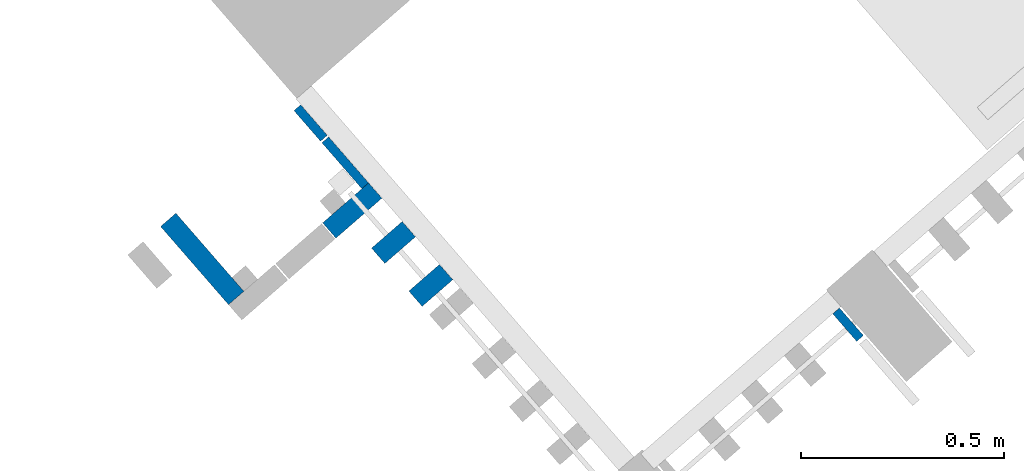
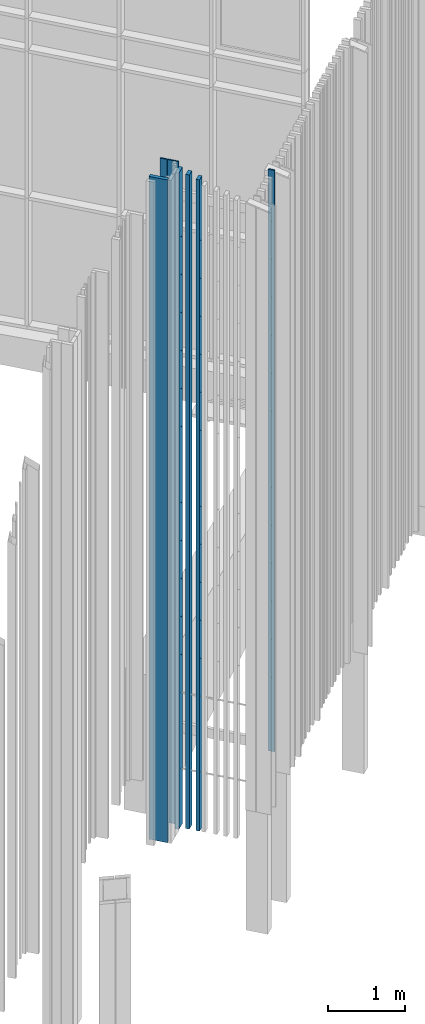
# One storey, part 271 of 390: 7 walls.
"""IFC2X3 building model written with IfcOpenShell, lengths in millimetres."""

from ifc_helpers import new_model, entity, si_unit, converted_unit, derived_unit, money_unit, direction, frame, origin_with_axes, place, context, subcontext, project, spatial, faceted_brep, material, type_object, element, save


model = new_model("IFC2X3")

# Units and contexts
model_context = context("Model", 3, precision=1e-05, world=origin_with_axes(), true_north=direction((0.0, 1.0)))
body_context = subcontext(model_context, "Body", "Model", "MODEL_VIEW")
ifc_project = project(units=[si_unit("LENGTHUNIT", "METRE", prefix="MILLI"), si_unit("AREAUNIT", "SQUARE_METRE"), si_unit("VOLUMEUNIT", "CUBIC_METRE"), converted_unit("PLANEANGLEUNIT", "DEGREE", entity("IfcPlaneAngleMeasure", 0.0174532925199), si_unit("PLANEANGLEUNIT", "RADIAN"), dimensions=[0, 0, 0, 0, 0, 0, 0]), si_unit("SOLIDANGLEUNIT", "STERADIAN"), money_unit("EUR"), converted_unit("TIMEUNIT", "Year", entity("IfcTimeMeasure", 31556926.0), si_unit("TIMEUNIT", "SECOND"), dimensions=[0, 0, 1, 0, 0, 0, 0]), si_unit("MASSUNIT", "GRAM", prefix="KILO"), si_unit("THERMODYNAMICTEMPERATUREUNIT", "DEGREE_CELSIUS"), si_unit("LUMINOUSINTENSITYUNIT", "LUMEN"), si_unit("ENERGYUNIT", "JOULE", prefix="MEGA"), derived_unit("THERMALCONDUCTANCEUNIT", [(si_unit("POWERUNIT", "WATT"), 1), (si_unit("LENGTHUNIT", "METRE"), -1), (si_unit("THERMODYNAMICTEMPERATUREUNIT", "KELVIN"), -1)]), derived_unit("SPECIFICHEATCAPACITYUNIT", [(si_unit("ENERGYUNIT", "JOULE"), 1), (si_unit("MASSUNIT", "GRAM", prefix="KILO"), -1), (si_unit("THERMODYNAMICTEMPERATUREUNIT", "KELVIN"), -1)]), derived_unit("MASSDENSITYUNIT", [(si_unit("MASSUNIT", "GRAM", prefix="KILO"), 1), (si_unit("VOLUMEUNIT", "CUBIC_METRE"), -1)])], contexts=[model_context])

# Site, building, storey
site_placement = place(None, origin_with_axes())
site = spatial("IfcSite", under=ifc_project, at=site_placement, Name="Site", CompositionType="ELEMENT")
building_placement = place(site_placement, origin_with_axes())
building = spatial("IfcBuilding", under=site, at=building_placement, Name="Building", CompositionType="ELEMENT")
storey_placement = place(building_placement, origin_with_axes())
storey = spatial("IfcBuildingStorey", under=building, at=storey_placement, Name="1 korrus", CompositionType="ELEMENT", Elevation=0.0)

# Walls
ifc_material_1 = material(Name="GENEERILINE - VÄLINE VOODER")
wall_type_1 = type_object("IfcWallType", Name="Puitfassaadi ribistik", PredefinedType="NOTDEFINED")
wall_1_placement = place(storey_placement, frame((172685.468549, 94405.9259666, -578.61886405), z_axis=(0.0, 0.0, 1.0), x_axis=(-0.656059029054, 0.754709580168, 0.0)))
element("IfcWall", 1, at=wall_1_placement, inside=storey, type_object=wall_type_1, material=ifc_material_1, Name="GENEERILINE - VÄLINE VOODER", context=body_context, shape_type="Brep", body=[
    faceted_brep([(25.0, 74.9999999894, 10357.9558295), (25.0, -74.9999999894, 10357.9558295), (25.0, -74.9999999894, 0.0), (25.0, 74.9999999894, 0.0), (25.0, -18.244082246, 904.61886405), (25.0, -18.244082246, 892.61886405), (25.0, -30.244082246, 892.61886405), (25.0, -30.244082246, 904.61886405), (25.0, -18.244082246, 2104.61886405), (25.0, -18.244082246, 2092.61886405), (25.0, -30.244082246, 2092.61886405), (25.0, -30.244082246, 2104.61886405), (25.0, -18.244082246, 2704.61886405), (25.0, -18.244082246, 2692.61886405), (25.0, -30.244082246, 2692.61886405), (25.0, -30.244082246, 2704.61886405), (25.0, -18.244082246, 3304.61886405), (25.0, -18.244082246, 3292.61886405), (25.0, -30.244082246, 3292.61886405), (25.0, -30.244082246, 3304.61886405), (25.0, -18.244082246, 3904.61886405), (25.0, -18.244082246, 3892.61886405), (25.0, -30.244082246, 3892.61886405), (25.0, -30.244082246, 3904.61886405), (25.0, -18.244082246, 4504.61886405), (25.0, -18.244082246, 4492.61886405), (25.0, -30.244082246, 4492.61886405), (25.0, -30.244082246, 4504.61886405), (25.0, -18.244082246, 5104.61886405), (25.0, -18.244082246, 5092.61886405), (25.0, -30.244082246, 5092.61886405), (25.0, -30.244082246, 5104.61886405), (25.0, -18.244082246, 6304.61886405), (25.0, -18.244082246, 6292.61886405), (25.0, -30.244082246, 6292.61886405), (25.0, -30.244082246, 6304.61886405), (25.0, -18.244082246, 6904.61886405), (25.0, -18.244082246, 6892.61886405), (25.0, -30.244082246, 6892.61886405), (25.0, -30.244082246, 6904.61886405), (25.0, -18.244082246, 7504.61886405), (25.0, -18.244082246, 7492.61886405), (25.0, -30.244082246, 7492.61886405), (25.0, -30.244082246, 7504.61886405), (25.0, -18.244082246, 8104.61886405), (25.0, -18.244082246, 8092.61886405), (25.0, -30.244082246, 8092.61886405), (25.0, -30.244082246, 8104.61886405), (25.0, -18.244082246, 8704.61886405), (25.0, -18.244082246, 8692.61886405), (25.0, -30.244082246, 8692.61886405), (25.0, -30.244082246, 8704.61886405), (25.0, -18.244082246, 9304.61886405), (25.0, -18.244082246, 9292.61886405), (25.0, -30.244082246, 9292.61886405), (25.0, -30.244082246, 9304.61886405), (-25.0, 74.9999999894, 10357.9558295), (-25.0, -74.9999999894, 10357.9558295), (-25.0, -74.9999999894, 0.0), (-25.0, 74.9999999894, 0.0), (-25.0, -18.2440583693, 904.61886405), (-25.0, -18.2440583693, 892.61886405), (-25.0, -30.2440583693, 892.61886405), (-25.0, -30.2440583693, 904.61886405), (-25.0, -18.2440583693, 2104.61886405), (-25.0, -18.2440583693, 2092.61886405), (-25.0, -30.2440583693, 2092.61886405), (-25.0, -30.2440583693, 2104.61886405), (-25.0, -18.2440583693, 2704.61886405), (-25.0, -18.2440583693, 2692.61886405), (-25.0, -30.2440583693, 2692.61886405), (-25.0, -30.2440583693, 2704.61886405), (-25.0, -18.2440583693, 3304.61886405), (-25.0, -18.2440583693, 3292.61886405), (-25.0, -30.2440583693, 3292.61886405), (-25.0, -30.2440583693, 3304.61886405), (-25.0, -18.2440583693, 3904.61886405), (-25.0, -18.2440583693, 3892.61886405), (-25.0, -30.2440583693, 3892.61886405), (-25.0, -30.2440583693, 3904.61886405), (-25.0, -18.2440583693, 4504.61886405), (-25.0, -18.2440583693, 4492.61886405), (-25.0, -30.2440583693, 4492.61886405), (-25.0, -30.2440583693, 4504.61886405), (-25.0, -18.2440583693, 5104.61886405), (-25.0, -18.2440583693, 5092.61886405), (-25.0, -30.2440583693, 5092.61886405), (-25.0, -30.2440583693, 5104.61886405), (-25.0, -18.2440583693, 6304.61886405), (-25.0, -18.2440583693, 6292.61886405), (-25.0, -30.2440583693, 6292.61886405), (-25.0, -30.2440583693, 6304.61886405), (-25.0, -18.2440583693, 6904.61886405), (-25.0, -18.2440583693, 6892.61886405), (-25.0, -30.2440583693, 6892.61886405), (-25.0, -30.2440583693, 6904.61886405), (-25.0, -18.2440583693, 7504.61886405), (-25.0, -18.2440583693, 7492.61886405), (-25.0, -30.2440583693, 7492.61886405), (-25.0, -30.2440583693, 7504.61886405), (-25.0, -18.2440583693, 8104.61886405), (-25.0, -18.2440583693, 8092.61886405), (-25.0, -30.2440583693, 8092.61886405), (-25.0, -30.2440583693, 8104.61886405), (-25.0, -18.2440583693, 8704.61886405), (-25.0, -18.2440583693, 8692.61886405), (-25.0, -30.2440583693, 8692.61886405), (-25.0, -30.2440583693, 8704.61886405), (-25.0, -18.2440583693, 9304.61886405), (-25.0, -18.2440583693, 9292.61886405), (-25.0, -30.2440583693, 9292.61886405), (-25.0, -30.2440583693, 9304.61886405)], [[[0, 1, 2, 3], [4, 5, 6, 7], [8, 9, 10, 11], [12, 13, 14, 15], [16, 17, 18, 19], [20, 21, 22, 23], [24, 25, 26, 27], [28, 29, 30, 31], [32, 33, 34, 35], [36, 37, 38, 39], [40, 41, 42, 43], [44, 45, 46, 47], [48, 49, 50, 51], [52, 53, 54, 55]], [[0, 56, 57, 1]], [[1, 57, 58, 2]], [[3, 2, 58, 59]], [[56, 0, 3, 59]], [[4, 60, 61, 5]], [[5, 61, 62, 6]], [[6, 62, 63, 7]], [[7, 63, 60, 4]], [[8, 64, 65, 9]], [[9, 65, 66, 10]], [[10, 66, 67, 11]], [[11, 67, 64, 8]], [[12, 68, 69, 13]], [[13, 69, 70, 14]], [[14, 70, 71, 15]], [[15, 71, 68, 12]], [[16, 72, 73, 17]], [[17, 73, 74, 18]], [[18, 74, 75, 19]], [[19, 75, 72, 16]], [[20, 76, 77, 21]], [[21, 77, 78, 22]], [[22, 78, 79, 23]], [[23, 79, 76, 20]], [[24, 80, 81, 25]], [[25, 81, 82, 26]], [[26, 82, 83, 27]], [[27, 83, 80, 24]], [[28, 84, 85, 29]], [[29, 85, 86, 30]], [[30, 86, 87, 31]], [[31, 87, 84, 28]], [[32, 88, 89, 33]], [[33, 89, 90, 34]], [[34, 90, 91, 35]], [[35, 91, 88, 32]], [[36, 92, 93, 37]], [[37, 93, 94, 38]], [[38, 94, 95, 39]], [[39, 95, 92, 36]], [[40, 96, 97, 41]], [[41, 97, 98, 42]], [[42, 98, 99, 43]], [[43, 99, 96, 40]], [[44, 100, 101, 45]], [[45, 101, 102, 46]], [[46, 102, 103, 47]], [[47, 103, 100, 44]], [[48, 104, 105, 49]], [[49, 105, 106, 50]], [[50, 106, 107, 51]], [[51, 107, 104, 48]], [[52, 108, 109, 53]], [[53, 109, 110, 54]], [[54, 110, 111, 55]], [[55, 111, 108, 52]], [[57, 56, 59, 58], [62, 61, 60, 63], [66, 65, 64, 67], [70, 69, 68, 71], [74, 73, 72, 75], [78, 77, 76, 79], [82, 81, 80, 83], [86, 85, 84, 87], [90, 89, 88, 91], [94, 93, 92, 95], [98, 97, 96, 99], [102, 101, 100, 103], [106, 105, 104, 107], [110, 109, 108, 111]]]),
])
wall_2_placement = place(storey_placement, frame((172878.846726, 94221.5753623, -578.61886405), z_axis=(0.0, 0.0, 1.0), x_axis=(-0.656059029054, 0.754709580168, 0.0)))
element("IfcWall", 2, at=wall_2_placement, inside=storey, type_object=wall_type_1, material=ifc_material_1, Name="GENEERILINE - VÄLINE VOODER", context=body_context, shape_type="Brep", body=[
    faceted_brep([(25.0, 50.0, 10279.3716075), (25.0, -50.0, 10279.3716075), (25.0, -50.0, 0.0), (25.0, 50.0, 0.0), (25.0, 6.75552899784, 904.61886405), (25.0, 6.75552899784, 892.61886405), (25.0, -5.24447100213, 892.61886405), (25.0, -5.24447100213, 904.61886405), (25.0, 6.75552899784, 2104.61886405), (25.0, 6.75552899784, 2092.61886405), (25.0, -5.24447100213, 2092.61886405), (25.0, -5.24447100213, 2104.61886405), (25.0, 6.75552899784, 2704.61886405), (25.0, 6.75552899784, 2692.61886405), (25.0, -5.24447100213, 2692.61886405), (25.0, -5.24447100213, 2704.61886405), (25.0, 6.75552899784, 3304.61886405), (25.0, 6.75552899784, 3292.61886405), (25.0, -5.24447100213, 3292.61886405), (25.0, -5.24447100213, 3304.61886405), (25.0, 6.75552899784, 3904.61886405), (25.0, 6.75552899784, 3892.61886405), (25.0, -5.24447100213, 3892.61886405), (25.0, -5.24447100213, 3904.61886405), (25.0, 6.75552899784, 4504.61886405), (25.0, 6.75552899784, 4492.61886405), (25.0, -5.24447100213, 4492.61886405), (25.0, -5.24447100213, 4504.61886405), (25.0, 6.75552899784, 5104.61886405), (25.0, 6.75552899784, 5092.61886405), (25.0, -5.24447100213, 5092.61886405), (25.0, -5.24447100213, 5104.61886405), (25.0, 6.75552899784, 6304.61886405), (25.0, 6.75552899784, 6292.61886405), (25.0, -5.24447100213, 6292.61886405), (25.0, -5.24447100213, 6304.61886405), (25.0, 6.75552899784, 6904.61886405), (25.0, 6.75552899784, 6892.61886405), (25.0, -5.24447100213, 6892.61886405), (25.0, -5.24447100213, 6904.61886405), (25.0, 6.75552899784, 7504.61886405), (25.0, 6.75552899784, 7492.61886405), (25.0, -5.24447100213, 7492.61886405), (25.0, -5.24447100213, 7504.61886405), (25.0, 6.75552899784, 8104.61886405), (25.0, 6.75552899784, 8092.61886405), (25.0, -5.24447100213, 8092.61886405), (25.0, -5.24447100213, 8104.61886405), (25.0, 6.75552899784, 8704.61886405), (25.0, 6.75552899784, 8692.61886405), (25.0, -5.24447100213, 8692.61886405), (25.0, -5.24447100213, 8704.61886405), (25.0, 6.75552899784, 9304.61886405), (25.0, 6.75552899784, 9292.61886405), (25.0, -5.24447100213, 9292.61886405), (25.0, -5.24447100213, 9304.61886405), (-25.0, 50.0, 10279.3716075), (-25.0, -50.0, 10279.3716075), (-25.0, -50.0, 0.0), (-25.0, 50.0, 0.0), (-25.0, 6.75555287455, 904.61886405), (-25.0, 6.75555287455, 892.61886405), (-25.0, -5.24444712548, 892.61886405), (-25.0, -5.24444712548, 904.61886405), (-25.0, 6.75555287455, 2104.61886405), (-25.0, 6.75555287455, 2092.61886405), (-25.0, -5.24444712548, 2092.61886405), (-25.0, -5.24444712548, 2104.61886405), (-25.0, 6.75555287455, 2704.61886405), (-25.0, 6.75555287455, 2692.61886405), (-25.0, -5.24444712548, 2692.61886405), (-25.0, -5.24444712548, 2704.61886405), (-25.0, 6.75555287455, 3304.61886405), (-25.0, 6.75555287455, 3292.61886405), (-25.0, -5.24444712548, 3292.61886405), (-25.0, -5.24444712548, 3304.61886405), (-25.0, 6.75555287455, 3904.61886405), (-25.0, 6.75555287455, 3892.61886405), (-25.0, -5.24444712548, 3892.61886405), (-25.0, -5.24444712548, 3904.61886405), (-25.0, 6.75555287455, 4504.61886405), (-25.0, 6.75555287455, 4492.61886405), (-25.0, -5.24444712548, 4492.61886405), (-25.0, -5.24444712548, 4504.61886405), (-25.0, 6.75555287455, 5104.61886405), (-25.0, 6.75555287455, 5092.61886405), (-25.0, -5.24444712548, 5092.61886405), (-25.0, -5.24444712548, 5104.61886405), (-25.0, 6.75555287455, 6304.61886405), (-25.0, 6.75555287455, 6292.61886405), (-25.0, -5.24444712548, 6292.61886405), (-25.0, -5.24444712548, 6304.61886405), (-25.0, 6.75555287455, 6904.61886405), (-25.0, 6.75555287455, 6892.61886405), (-25.0, -5.24444712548, 6892.61886405), (-25.0, -5.24444712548, 6904.61886405), (-25.0, 6.75555287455, 7504.61886405), (-25.0, 6.75555287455, 7492.61886405), (-25.0, -5.24444712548, 7492.61886405), (-25.0, -5.24444712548, 7504.61886405), (-25.0, 6.75555287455, 8104.61886405), (-25.0, 6.75555287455, 8092.61886405), (-25.0, -5.24444712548, 8092.61886405), (-25.0, -5.24444712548, 8104.61886405), (-25.0, 6.75555287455, 8704.61886405), (-25.0, 6.75555287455, 8692.61886405), (-25.0, -5.24444712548, 8692.61886405), (-25.0, -5.24444712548, 8704.61886405), (-25.0, 6.75555287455, 9304.61886405), (-25.0, 6.75555287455, 9292.61886405), (-25.0, -5.24444712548, 9292.61886405), (-25.0, -5.24444712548, 9304.61886405)], [[[0, 1, 2, 3], [4, 5, 6, 7], [8, 9, 10, 11], [12, 13, 14, 15], [16, 17, 18, 19], [20, 21, 22, 23], [24, 25, 26, 27], [28, 29, 30, 31], [32, 33, 34, 35], [36, 37, 38, 39], [40, 41, 42, 43], [44, 45, 46, 47], [48, 49, 50, 51], [52, 53, 54, 55]], [[0, 56, 57, 1]], [[1, 57, 58, 2]], [[3, 2, 58, 59]], [[56, 0, 3, 59]], [[4, 60, 61, 5]], [[5, 61, 62, 6]], [[6, 62, 63, 7]], [[7, 63, 60, 4]], [[8, 64, 65, 9]], [[9, 65, 66, 10]], [[10, 66, 67, 11]], [[11, 67, 64, 8]], [[12, 68, 69, 13]], [[13, 69, 70, 14]], [[14, 70, 71, 15]], [[15, 71, 68, 12]], [[16, 72, 73, 17]], [[17, 73, 74, 18]], [[18, 74, 75, 19]], [[19, 75, 72, 16]], [[20, 76, 77, 21]], [[21, 77, 78, 22]], [[22, 78, 79, 23]], [[23, 79, 76, 20]], [[24, 80, 81, 25]], [[25, 81, 82, 26]], [[26, 82, 83, 27]], [[27, 83, 80, 24]], [[28, 84, 85, 29]], [[29, 85, 86, 30]], [[30, 86, 87, 31]], [[31, 87, 84, 28]], [[32, 88, 89, 33]], [[33, 89, 90, 34]], [[34, 90, 91, 35]], [[35, 91, 88, 32]], [[36, 92, 93, 37]], [[37, 93, 94, 38]], [[38, 94, 95, 39]], [[39, 95, 92, 36]], [[40, 96, 97, 41]], [[41, 97, 98, 42]], [[42, 98, 99, 43]], [[43, 99, 96, 40]], [[44, 100, 101, 45]], [[45, 101, 102, 46]], [[46, 102, 103, 47]], [[47, 103, 100, 44]], [[48, 104, 105, 49]], [[49, 105, 106, 50]], [[50, 106, 107, 51]], [[51, 107, 104, 48]], [[52, 108, 109, 53]], [[53, 109, 110, 54]], [[54, 110, 111, 55]], [[55, 111, 108, 52]], [[57, 56, 59, 58], [62, 61, 60, 63], [66, 65, 64, 67], [70, 69, 68, 71], [74, 73, 72, 75], [78, 77, 76, 79], [82, 81, 80, 83], [86, 85, 84, 87], [90, 89, 88, 91], [94, 93, 92, 95], [98, 97, 96, 99], [102, 101, 100, 103], [106, 105, 104, 107], [110, 109, 108, 111]]]),
])
wall_3_placement = place(storey_placement, frame((172786.998091, 94327.2344002, -578.61886405), z_axis=(0.0, 0.0, 1.0), x_axis=(-0.656059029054, 0.754709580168, 0.0)))
element("IfcWall", 3, at=wall_3_placement, inside=storey, type_object=wall_type_1, material=ifc_material_1, Name="GENEERILINE - VÄLINE VOODER", context=body_context, shape_type="Brep", body=[
    faceted_brep([(25.0, 49.9999999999, 10326.5221407), (25.0, -49.9999999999, 10326.5221407), (25.0, -49.9999999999, 0.0), (25.0, 49.9999999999, 0.0), (25.0, 6.75498292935, 904.61886405), (25.0, 6.75498292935, 892.61886405), (25.0, -5.24501707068, 892.61886405), (25.0, -5.24501707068, 904.61886405), (25.0, 6.75498292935, 2104.61886405), (25.0, 6.75498292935, 2092.61886405), (25.0, -5.24501707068, 2092.61886405), (25.0, -5.24501707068, 2104.61886405), (25.0, 6.75498292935, 2704.61886405), (25.0, 6.75498292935, 2692.61886405), (25.0, -5.24501707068, 2692.61886405), (25.0, -5.24501707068, 2704.61886405), (25.0, 6.75498292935, 3304.61886405), (25.0, 6.75498292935, 3292.61886405), (25.0, -5.24501707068, 3292.61886405), (25.0, -5.24501707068, 3304.61886405), (25.0, 6.75498292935, 3904.61886405), (25.0, 6.75498292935, 3892.61886405), (25.0, -5.24501707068, 3892.61886405), (25.0, -5.24501707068, 3904.61886405), (25.0, 6.75498292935, 4504.61886405), (25.0, 6.75498292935, 4492.61886405), (25.0, -5.24501707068, 4492.61886405), (25.0, -5.24501707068, 4504.61886405), (25.0, 6.75498292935, 5104.61886405), (25.0, 6.75498292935, 5092.61886405), (25.0, -5.24501707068, 5092.61886405), (25.0, -5.24501707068, 5104.61886405), (25.0, 6.75498292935, 6304.61886405), (25.0, 6.75498292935, 6292.61886405), (25.0, -5.24501707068, 6292.61886405), (25.0, -5.24501707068, 6304.61886405), (25.0, 6.75498292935, 6904.61886405), (25.0, 6.75498292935, 6892.61886405), (25.0, -5.24501707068, 6892.61886405), (25.0, -5.24501707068, 6904.61886405), (25.0, 6.75498292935, 7504.61886405), (25.0, 6.75498292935, 7492.61886405), (25.0, -5.24501707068, 7492.61886405), (25.0, -5.24501707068, 7504.61886405), (25.0, 6.75498292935, 8104.61886405), (25.0, 6.75498292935, 8092.61886405), (25.0, -5.24501707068, 8092.61886405), (25.0, -5.24501707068, 8104.61886405), (25.0, 6.75498292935, 8704.61886405), (25.0, 6.75498292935, 8692.61886405), (25.0, -5.24501707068, 8692.61886405), (25.0, -5.24501707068, 8704.61886405), (25.0, 6.75498292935, 9304.61886405), (25.0, 6.75498292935, 9292.61886405), (25.0, -5.24501707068, 9292.61886405), (25.0, -5.24501707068, 9304.61886405), (-25.0, 50.0, 10326.5221407), (-25.0, -49.9999999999, 10326.5221407), (-25.0, -49.9999999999, 0.0), (-25.0, 50.0, 0.0), (-25.0, 6.75500680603, 904.61886405), (-25.0, 6.75500680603, 892.61886405), (-25.0, -5.244993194, 892.61886405), (-25.0, -5.244993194, 904.61886405), (-25.0, 6.75500680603, 2104.61886405), (-25.0, 6.75500680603, 2092.61886405), (-25.0, -5.244993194, 2092.61886405), (-25.0, -5.244993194, 2104.61886405), (-25.0, 6.75500680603, 2704.61886405), (-25.0, 6.75500680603, 2692.61886405), (-25.0, -5.244993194, 2692.61886405), (-25.0, -5.244993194, 2704.61886405), (-25.0, 6.75500680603, 3304.61886405), (-25.0, 6.75500680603, 3292.61886405), (-25.0, -5.244993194, 3292.61886405), (-25.0, -5.244993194, 3304.61886405), (-25.0, 6.75500680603, 3904.61886405), (-25.0, 6.75500680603, 3892.61886405), (-25.0, -5.244993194, 3892.61886405), (-25.0, -5.244993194, 3904.61886405), (-25.0, 6.75500680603, 4504.61886405), (-25.0, 6.75500680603, 4492.61886405), (-25.0, -5.244993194, 4492.61886405), (-25.0, -5.244993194, 4504.61886405), (-25.0, 6.75500680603, 5104.61886405), (-25.0, 6.75500680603, 5092.61886405), (-25.0, -5.244993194, 5092.61886405), (-25.0, -5.244993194, 5104.61886405), (-25.0, 6.75500680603, 6304.61886405), (-25.0, 6.75500680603, 6292.61886405), (-25.0, -5.244993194, 6292.61886405), (-25.0, -5.244993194, 6304.61886405), (-25.0, 6.75500680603, 6904.61886405), (-25.0, 6.75500680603, 6892.61886405), (-25.0, -5.244993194, 6892.61886405), (-25.0, -5.244993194, 6904.61886405), (-25.0, 6.75500680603, 7504.61886405), (-25.0, 6.75500680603, 7492.61886405), (-25.0, -5.244993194, 7492.61886405), (-25.0, -5.244993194, 7504.61886405), (-25.0, 6.75500680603, 8104.61886405), (-25.0, 6.75500680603, 8092.61886405), (-25.0, -5.244993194, 8092.61886405), (-25.0, -5.244993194, 8104.61886405), (-25.0, 6.75500680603, 8704.61886405), (-25.0, 6.75500680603, 8692.61886405), (-25.0, -5.244993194, 8692.61886405), (-25.0, -5.244993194, 8704.61886405), (-25.0, 6.75500680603, 9304.61886405), (-25.0, 6.75500680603, 9292.61886405), (-25.0, -5.244993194, 9292.61886405), (-25.0, -5.244993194, 9304.61886405)], [[[0, 1, 2, 3], [4, 5, 6, 7], [8, 9, 10, 11], [12, 13, 14, 15], [16, 17, 18, 19], [20, 21, 22, 23], [24, 25, 26, 27], [28, 29, 30, 31], [32, 33, 34, 35], [36, 37, 38, 39], [40, 41, 42, 43], [44, 45, 46, 47], [48, 49, 50, 51], [52, 53, 54, 55]], [[0, 56, 57, 1]], [[1, 57, 58, 2]], [[3, 2, 58, 59]], [[56, 0, 3, 59]], [[4, 60, 61, 5]], [[5, 61, 62, 6]], [[6, 62, 63, 7]], [[7, 63, 60, 4]], [[8, 64, 65, 9]], [[9, 65, 66, 10]], [[10, 66, 67, 11]], [[11, 67, 64, 8]], [[12, 68, 69, 13]], [[13, 69, 70, 14]], [[14, 70, 71, 15]], [[15, 71, 68, 12]], [[16, 72, 73, 17]], [[17, 73, 74, 18]], [[18, 74, 75, 19]], [[19, 75, 72, 16]], [[20, 76, 77, 21]], [[21, 77, 78, 22]], [[22, 78, 79, 23]], [[23, 79, 76, 20]], [[24, 80, 81, 25]], [[25, 81, 82, 26]], [[26, 82, 83, 27]], [[27, 83, 80, 24]], [[28, 84, 85, 29]], [[29, 85, 86, 30]], [[30, 86, 87, 31]], [[31, 87, 84, 28]], [[32, 88, 89, 33]], [[33, 89, 90, 34]], [[34, 90, 91, 35]], [[35, 91, 88, 32]], [[36, 92, 93, 37]], [[37, 93, 94, 38]], [[38, 94, 95, 39]], [[39, 95, 92, 36]], [[40, 96, 97, 41]], [[41, 97, 98, 42]], [[42, 98, 99, 43]], [[43, 99, 96, 40]], [[44, 100, 101, 45]], [[45, 101, 102, 46]], [[46, 102, 103, 47]], [[47, 103, 100, 44]], [[48, 104, 105, 49]], [[49, 105, 106, 50]], [[50, 106, 107, 51]], [[51, 107, 104, 48]], [[52, 108, 109, 53]], [[53, 109, 110, 54]], [[54, 110, 111, 55]], [[55, 111, 108, 52]], [[57, 56, 59, 58], [62, 61, 60, 63], [66, 65, 64, 67], [70, 69, 68, 71], [74, 73, 72, 75], [78, 77, 76, 79], [82, 81, 80, 83], [86, 85, 84, 87], [90, 89, 88, 91], [94, 93, 92, 95], [98, 97, 96, 99], [102, 101, 100, 103], [106, 105, 104, 107], [110, 109, 108, 111]]]),
])
wall_4_placement = place(storey_placement, frame((173906.277163, 94124.9208128, 350.0), z_axis=(0.0, 0.0, 1.0), x_axis=(-0.754709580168, -0.656059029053, 0.0)))
element("IfcWall", 4, at=wall_4_placement, inside=storey, type_object=wall_type_1, material=ifc_material_1, Name="GENEERILINE - VÄLINE VOODER", context=body_context, shape_type="Brep", body=[
    faceted_brep([(11.0000005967, 45.0000090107, 9177.67650997), (11.0000005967, -45.0000090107, 9177.67650997), (11.0000005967, -45.0000090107, 0.0), (11.0000005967, 45.0000090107, 0.0), (11.0000005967, 11.9963716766, 1164.0), (11.0000005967, -0.00362832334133, 1164.0), (11.0000005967, -0.00362832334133, 1176.0), (11.0000005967, 11.9963716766, 1176.0), (11.0000005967, 11.9963716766, 1764.0), (11.0000005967, -0.00362832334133, 1764.0), (11.0000005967, -0.00362832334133, 1776.0), (11.0000005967, 11.9963716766, 1776.0), (11.0000005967, 11.9963716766, 2364.0), (11.0000005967, -0.00362832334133, 2364.0), (11.0000005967, -0.00362832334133, 2376.0), (11.0000005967, 11.9963716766, 2376.0), (11.0000005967, 11.9963716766, 2964.0), (11.0000005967, -0.00362832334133, 2964.0), (11.0000005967, -0.00362832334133, 2976.0), (11.0000005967, 11.9963716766, 2976.0), (11.0000005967, 11.9963716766, 3564.0), (11.0000005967, -0.00362832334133, 3564.0), (11.0000005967, -0.00362832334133, 3576.0), (11.0000005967, 11.9963716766, 3576.0), (11.0000005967, 11.9963716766, 4164.0), (11.0000005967, -0.00362832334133, 4164.0), (11.0000005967, -0.00362832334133, 4176.0), (11.0000005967, 11.9963716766, 4176.0), (11.0000005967, 11.9963716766, 5364.0), (11.0000005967, -0.00362832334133, 5364.0), (11.0000005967, -0.00362832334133, 5376.0), (11.0000005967, 11.9963716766, 5376.0), (11.0000005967, 11.9963716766, 5964.0), (11.0000005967, -0.00362832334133, 5964.0), (11.0000005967, -0.00362832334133, 5976.0), (11.0000005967, 11.9963716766, 5976.0), (11.0000005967, 11.9963716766, 6564.0), (11.0000005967, -0.00362832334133, 6564.0), (11.0000005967, -0.00362832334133, 6576.0), (11.0000005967, 11.9963716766, 6576.0), (11.0000005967, 11.9963716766, 7164.0), (11.0000005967, -0.00362832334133, 7164.0), (11.0000005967, -0.00362832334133, 7176.0), (11.0000005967, 11.9963716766, 7176.0), (11.0000005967, 11.9963716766, 7764.0), (11.0000005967, -0.00362832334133, 7764.0), (11.0000005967, -0.00362832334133, 7776.0), (11.0000005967, 11.9963716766, 7776.0), (11.0000005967, 11.9963716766, 8364.0), (11.0000005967, -0.00362832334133, 8364.0), (11.0000005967, -0.00362832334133, 8376.0), (11.0000005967, 11.9963716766, 8376.0), (-11.0000005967, 45.0000090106, 9177.67650997), (-11.0000005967, -45.0000090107, 9177.67650997), (-11.0000005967, -45.0000090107, 0.0), (-11.0000005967, 45.0000090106, 0.0), (-11.0000005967, 11.9963821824, 1164.0), (-11.0000005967, -0.00361781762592, 1164.0), (-11.0000005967, -0.00361781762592, 1176.0), (-11.0000005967, 11.9963821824, 1176.0), (-11.0000005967, 11.9963821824, 1764.0), (-11.0000005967, -0.00361781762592, 1764.0), (-11.0000005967, -0.00361781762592, 1776.0), (-11.0000005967, 11.9963821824, 1776.0), (-11.0000005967, 11.9963821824, 2364.0), (-11.0000005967, -0.00361781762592, 2364.0), (-11.0000005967, -0.00361781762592, 2376.0), (-11.0000005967, 11.9963821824, 2376.0), (-11.0000005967, 11.9963821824, 2964.0), (-11.0000005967, -0.00361781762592, 2964.0), (-11.0000005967, -0.00361781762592, 2976.0), (-11.0000005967, 11.9963821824, 2976.0), (-11.0000005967, 11.9963821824, 3564.0), (-11.0000005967, -0.00361781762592, 3564.0), (-11.0000005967, -0.00361781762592, 3576.0), (-11.0000005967, 11.9963821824, 3576.0), (-11.0000005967, 11.9963821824, 4164.0), (-11.0000005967, -0.00361781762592, 4164.0), (-11.0000005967, -0.00361781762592, 4176.0), (-11.0000005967, 11.9963821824, 4176.0), (-11.0000005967, 11.9963821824, 5364.0), (-11.0000005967, -0.00361781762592, 5364.0), (-11.0000005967, -0.00361781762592, 5376.0), (-11.0000005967, 11.9963821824, 5376.0), (-11.0000005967, 11.9963821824, 5964.0), (-11.0000005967, -0.00361781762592, 5964.0), (-11.0000005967, -0.00361781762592, 5976.0), (-11.0000005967, 11.9963821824, 5976.0), (-11.0000005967, 11.9963821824, 6564.0), (-11.0000005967, -0.00361781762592, 6564.0), (-11.0000005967, -0.00361781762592, 6576.0), (-11.0000005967, 11.9963821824, 6576.0), (-11.0000005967, 11.9963821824, 7164.0), (-11.0000005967, -0.00361781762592, 7164.0), (-11.0000005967, -0.00361781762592, 7176.0), (-11.0000005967, 11.9963821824, 7176.0), (-11.0000005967, 11.9963821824, 7764.0), (-11.0000005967, -0.00361781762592, 7764.0), (-11.0000005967, -0.00361781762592, 7776.0), (-11.0000005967, 11.9963821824, 7776.0), (-11.0000005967, 11.9963821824, 8364.0), (-11.0000005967, -0.00361781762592, 8364.0), (-11.0000005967, -0.00361781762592, 8376.0), (-11.0000005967, 11.9963821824, 8376.0)], [[[0, 1, 2, 3], [4, 5, 6, 7], [8, 9, 10, 11], [12, 13, 14, 15], [16, 17, 18, 19], [20, 21, 22, 23], [24, 25, 26, 27], [28, 29, 30, 31], [32, 33, 34, 35], [36, 37, 38, 39], [40, 41, 42, 43], [44, 45, 46, 47], [48, 49, 50, 51]], [[0, 52, 53, 1]], [[1, 53, 54, 2]], [[3, 2, 54, 55]], [[52, 0, 3, 55]], [[4, 56, 57, 5]], [[5, 57, 58, 6]], [[6, 58, 59, 7]], [[7, 59, 56, 4]], [[8, 60, 61, 9]], [[9, 61, 62, 10]], [[10, 62, 63, 11]], [[11, 63, 60, 8]], [[12, 64, 65, 13]], [[13, 65, 66, 14]], [[14, 66, 67, 15]], [[15, 67, 64, 12]], [[16, 68, 69, 17]], [[17, 69, 70, 18]], [[18, 70, 71, 19]], [[19, 71, 68, 16]], [[20, 72, 73, 21]], [[21, 73, 74, 22]], [[22, 74, 75, 23]], [[23, 75, 72, 20]], [[24, 76, 77, 25]], [[25, 77, 78, 26]], [[26, 78, 79, 27]], [[27, 79, 76, 24]], [[28, 80, 81, 29]], [[29, 81, 82, 30]], [[30, 82, 83, 31]], [[31, 83, 80, 28]], [[32, 84, 85, 33]], [[33, 85, 86, 34]], [[34, 86, 87, 35]], [[35, 87, 84, 32]], [[36, 88, 89, 37]], [[37, 89, 90, 38]], [[38, 90, 91, 39]], [[39, 91, 88, 36]], [[40, 92, 93, 41]], [[41, 93, 94, 42]], [[42, 94, 95, 43]], [[43, 95, 92, 40]], [[44, 96, 97, 45]], [[45, 97, 98, 46]], [[46, 98, 99, 47]], [[47, 99, 96, 44]], [[48, 100, 101, 49]], [[49, 101, 102, 50]], [[50, 102, 103, 51]], [[51, 103, 100, 48]], [[53, 52, 55, 54], [58, 57, 56, 59], [62, 61, 60, 63], [66, 65, 64, 67], [70, 69, 68, 71], [74, 73, 72, 75], [78, 77, 76, 79], [82, 81, 80, 83], [86, 85, 84, 87], [90, 89, 88, 91], [94, 93, 92, 95], [98, 97, 96, 99], [102, 101, 100, 103]]]),
])
ifc_material_2 = material(Name="Site specified")
wall_type_2 = type_object("IfcWallType", Name="Puitfassaadi ribisik", PredefinedType="NOTDEFINED")
wall_5_placement = place(storey_placement, frame((172315.988227, 94286.8061042, -597.999974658), z_axis=(0.0, 0.0, 1.0), x_axis=(-0.754709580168, -0.656059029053, 0.0)))
element("IfcWall", 5, at=wall_5_placement, inside=storey, type_object=wall_type_2, material=ifc_material_2, Name="Site specified", context=body_context, shape_type="Brep", body=[
    faceted_brep([(-25.0, -127.500000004, 10462.9999696), (-25.0, -127.500000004, 0.0), (25.0, -127.500000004, 0.0), (25.0, -127.500000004, 10462.9999696), (-25.0, 127.500000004, 10462.9999696), (-25.0, 127.500000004, 0.0), (25.0, 127.500000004, 0.0), (25.0, 127.500000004, 10462.9999696)], [[[0, 1, 2, 3]], [[4, 5, 1, 0]], [[2, 1, 5, 6]], [[3, 2, 6, 7]], [[4, 0, 3, 7]], [[7, 6, 5, 4]]]),
])
wall_6_placement = place(storey_placement, frame((172582.876331, 94621.4969925, -597.999974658), z_axis=(0.0, 0.0, 1.0), x_axis=(-0.754709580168, -0.656059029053, 0.0)))
element("IfcWall", 6, at=wall_6_placement, inside=storey, type_object=wall_type_2, material=ifc_material_2, Name="Site specified", context=body_context, shape_type="Brep", body=[
    faceted_brep([(10.9999881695, -49.9999999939, 10462.9999696), (-10.9999881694, -49.9999999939, 10462.9999696), (-10.9999881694, -49.9999999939, 0.0), (10.9999881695, -49.9999999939, 0.0), (10.9999881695, 49.9999999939, 10462.9999696), (-10.9999881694, 49.9999999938, 10462.9999696), (-10.9999881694, 49.9999999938, 0.0), (10.9999881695, 49.9999999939, 0.0)], [[[0, 1, 2, 3]], [[4, 5, 1, 0]], [[1, 5, 6, 2]], [[7, 3, 2, 6]], [[4, 0, 3, 7]], [[5, 4, 7, 6]]]),
])
wall_7_placement = place(storey_placement, frame((172668.164069, 94523.3847103, -597.999974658), z_axis=(0.0, 0.0, 1.0), x_axis=(-0.754709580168, -0.656059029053, 0.0)))
element("IfcWall", 7, at=wall_7_placement, inside=storey, type_object=wall_type_2, material=ifc_material_2, Name="Site specified", context=body_context, shape_type="Brep", body=[
    faceted_brep([(10.9999881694, -75.0, 10462.9999696), (-10.9999881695, -75.0, 10462.9999696), (-10.9999881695, -75.0, 0.0), (10.9999881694, -75.0, 0.0), (10.9999881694, 75.0, 10462.9999696), (-10.9999881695, 75.0, 10462.9999696), (-10.9999881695, 75.0, 0.0), (10.9999881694, 75.0, 0.0)], [[[0, 1, 2, 3]], [[4, 5, 1, 0]], [[1, 5, 6, 2]], [[7, 3, 2, 6]], [[4, 0, 3, 7]], [[5, 4, 7, 6]]]),
])

save(model, "model.ifc")
